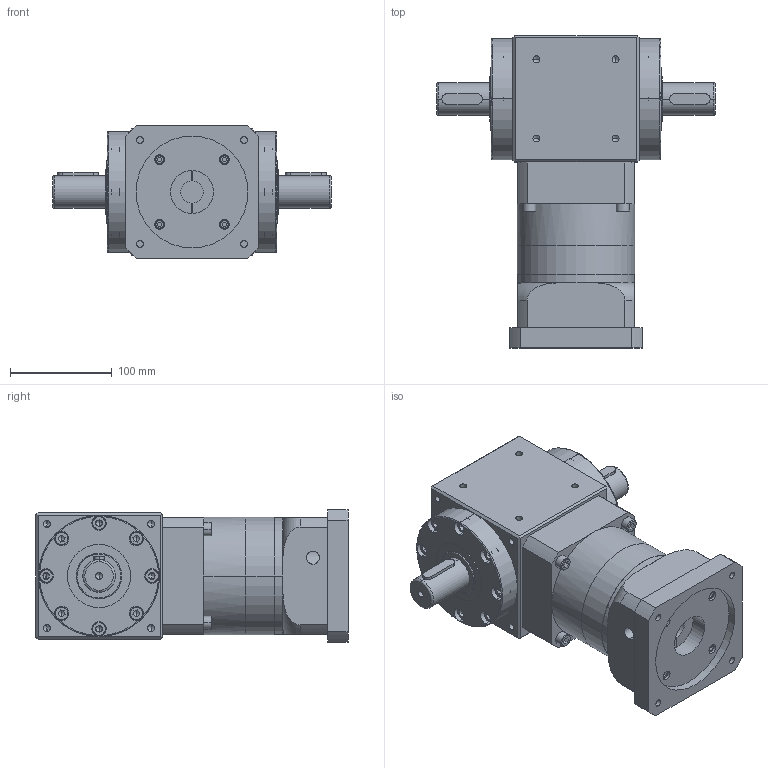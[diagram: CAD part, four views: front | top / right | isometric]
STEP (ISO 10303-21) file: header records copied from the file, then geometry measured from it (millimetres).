
FILE_DESCRIPTION (( 'STEP AP214' ), '1' );
FILE_NAME ('RAH120-L2-XX-2S-22-110-145-M8_2019.STEP', '2019-03-27T08:50:31', ( 'Y' ), ( 'NCU' ), 'SwSTEP 2.0', 'SolidWorks 2016', '' );
FILE_SCHEMA (( 'AUTOMOTIVE_DESIGN' ));
Length unit declared in the file: millimetre
Products named in the file (1): RAH120-L2-XX-2S-22-110-145-M8_2019
Bounding box: 274 x 306.8 x 130 mm (x, y, z)
Volume: 4507002.9 mm3; surface area: 337531 mm2
Topology: 5 solids, 33 shells, 889 faces, 2062 edges, 1252 vertices
Faces by surface type: plane 429, cylinder 296, cone 116, torus 48
Entity records: 29486 total; most frequent: CARTESIAN_POINT 7264, DIRECTION 4550, ORIENTED_EDGE 3948, EDGE_CURVE 1974, AXIS2_PLACEMENT_3D 1758, VERTEX_POINT 1252, VECTOR 1034, LINE 1034
